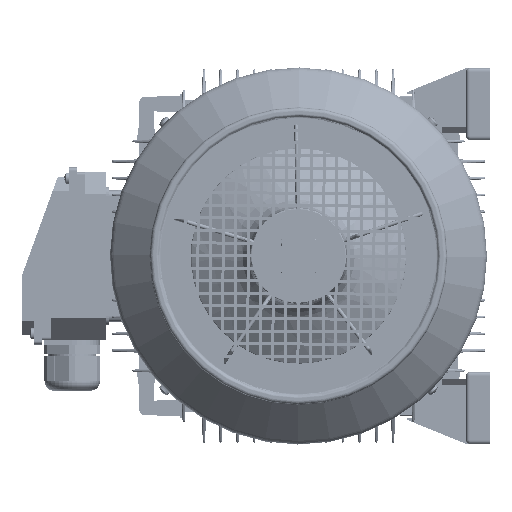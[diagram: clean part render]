
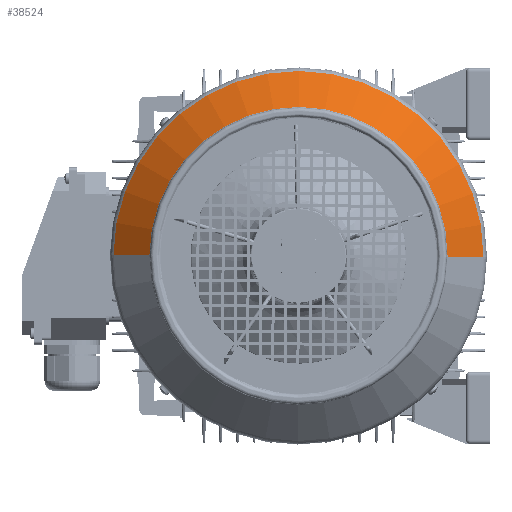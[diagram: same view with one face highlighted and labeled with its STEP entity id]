
A CAD part, left-side view. The second image highlights one B-rep face of the part: STEP entity #38524.
In plain terms, the highlighted conical face has half-angle 45 degrees and reference radius 124.586 mm.
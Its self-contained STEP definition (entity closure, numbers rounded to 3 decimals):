
#19279 = DIRECTION ( 'NONE',  ( 1., 0., 0. ) ) ;
#21861 = VECTOR ( 'NONE', #147574, 1000. ) ;
#32599 = CARTESIAN_POINT ( 'NONE',  ( -256.797, -1.5, 0. ) ) ;
#32774 = CARTESIAN_POINT ( 'NONE',  ( -286.782, -126.084, -0.655 ) ) ;
#33548 = ORIENTED_EDGE ( 'NONE', *, *, #194201, .T. ) ;
#38524 = ADVANCED_FACE ( 'NONE', ( #166334 ), #81430, .T. ) ;
#45220 = CARTESIAN_POINT ( 'NONE',  ( -286.782, 123.084, 0.655 ) ) ;
#48961 = AXIS2_PLACEMENT_3D ( 'NONE', #32599, #162819, #237675 ) ;
#55516 = CARTESIAN_POINT ( 'NONE',  ( -256.797, -156.069, -0.812 ) ) ;
#81430 = CONICAL_SURFACE ( 'NONE', #191394, 124.586, 0.785 ) ;
#91829 = EDGE_CURVE ( 'NONE', #197963, #226286, #201562, .T. ) ;
#99443 = CIRCLE ( 'NONE', #220957, 124.586 ) ;
#115615 = CIRCLE ( 'NONE', #48961, 154.571 ) ;
#123827 = VECTOR ( 'NONE', #203972, 1000. ) ;
#124801 = ORIENTED_EDGE ( 'NONE', *, *, #184180, .T. ) ;
#136395 = ORIENTED_EDGE ( 'NONE', *, *, #91829, .F. ) ;
#140078 = EDGE_CURVE ( 'NONE', #226286, #204293, #115615, .T. ) ;
#146864 = VERTEX_POINT ( 'NONE', #32774 ) ;
#147574 = DIRECTION ( 'NONE',  ( 0.707, -0.707, -0.004 ) ) ;
#151949 = DIRECTION ( 'NONE',  ( 0., -1., -0.005 ) ) ;
#162819 = DIRECTION ( 'NONE',  ( 1., 0., 0. ) ) ;
#163643 = ORIENTED_EDGE ( 'NONE', *, *, #140078, .F. ) ;
#164809 = LINE ( 'NONE', #217677, #21861 ) ;
#166334 = FACE_OUTER_BOUND ( 'NONE', #173130, .T. ) ;
#173130 = EDGE_LOOP ( 'NONE', ( #136395, #124801, #33548, #163643 ) ) ;
#176416 = CARTESIAN_POINT ( 'NONE',  ( -256.797, 153.069, 0.812 ) ) ;
#181198 = DIRECTION ( 'NONE',  ( 1., 0., 0. ) ) ;
#184180 = EDGE_CURVE ( 'NONE', #197963, #146864, #99443, .T. ) ;
#187608 = CARTESIAN_POINT ( 'NONE',  ( -286.782, -1.5, 0. ) ) ;
#191394 = AXIS2_PLACEMENT_3D ( 'NONE', #241205, #181198, #200815 ) ;
#194201 = EDGE_CURVE ( 'NONE', #146864, #204293, #164809, .T. ) ;
#197963 = VERTEX_POINT ( 'NONE', #45220 ) ;
#200815 = DIRECTION ( 'NONE',  ( 0., -1., -0.005 ) ) ;
#201562 = LINE ( 'NONE', #202767, #123827 ) ;
#202767 = CARTESIAN_POINT ( 'NONE',  ( -286.782, 123.084, 0.655 ) ) ;
#203972 = DIRECTION ( 'NONE',  ( 0.707, 0.707, 0.004 ) ) ;
#204293 = VERTEX_POINT ( 'NONE', #55516 ) ;
#217677 = CARTESIAN_POINT ( 'NONE',  ( -286.782, -126.084, -0.655 ) ) ;
#220957 = AXIS2_PLACEMENT_3D ( 'NONE', #187608, #19279, #151949 ) ;
#226286 = VERTEX_POINT ( 'NONE', #176416 ) ;
#237675 = DIRECTION ( 'NONE',  ( 0., -1., -0.005 ) ) ;
#241205 = CARTESIAN_POINT ( 'NONE',  ( -286.782, -1.5, 0. ) ) ;
